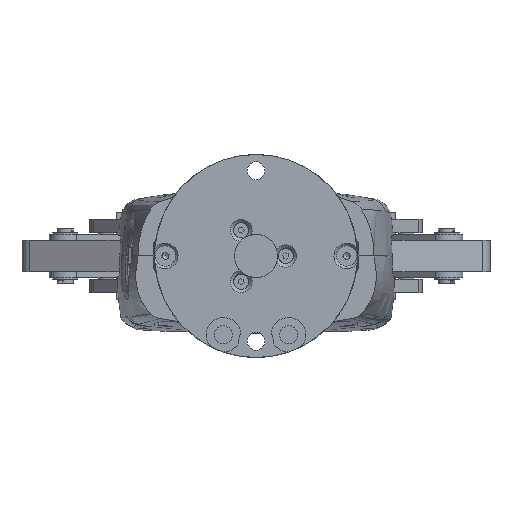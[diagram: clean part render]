
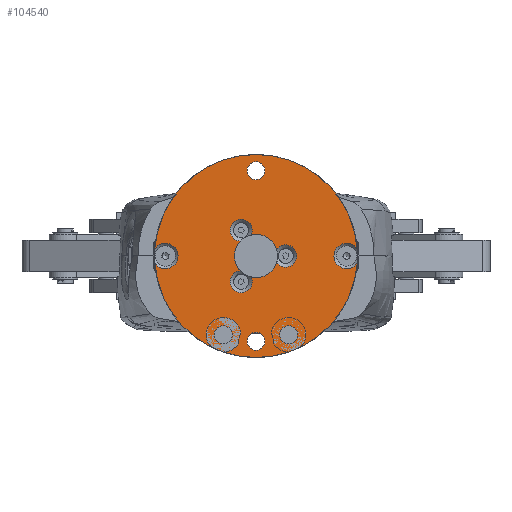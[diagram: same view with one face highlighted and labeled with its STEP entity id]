
A CAD part, front view. The second image highlights one B-rep face of the part: STEP entity #104540.
In plain terms, the highlighted planar face has unit normal (0, -1, 0).
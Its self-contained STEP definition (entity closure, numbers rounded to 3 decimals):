
#125 = EDGE_CURVE ( 'NONE', #43300, #43300, #105601, .T. ) ;
#957 = CIRCLE ( 'NONE', #10593, 8. ) ;
#3044 = CARTESIAN_POINT ( 'NONE',  ( 26.067, 64.579, 151.669 ) ) ;
#5324 = CARTESIAN_POINT ( 'NONE',  ( 10.713, 64.579, 180.771 ) ) ;
#5917 = EDGE_LOOP ( 'NONE', ( #46003 ) ) ;
#8610 = CIRCLE ( 'NONE', #30763, 4.7 ) ;
#9492 = DIRECTION ( 'NONE',  ( -1., 0., 0. ) ) ;
#10593 = AXIS2_PLACEMENT_3D ( 'NONE', #45917, #17112, #165481 ) ;
#11450 = CARTESIAN_POINT ( 'NONE',  ( 5.213, 64.579, 190.298 ) ) ;
#13271 = CARTESIAN_POINT ( 'NONE',  ( 10.713, 64.579, 212.271 ) ) ;
#15260 = ORIENTED_EDGE ( 'NONE', *, *, #193301, .T. ) ;
#16236 = EDGE_CURVE ( 'NONE', #83800, #88005, #8610, .T. ) ;
#17112 = DIRECTION ( 'NONE',  ( 0., -1., 0. ) ) ;
#18805 = DIRECTION ( 'NONE',  ( 0., -1., 0. ) ) ;
#19326 = CARTESIAN_POINT ( 'NONE',  ( 8.931, 64.579, 172.972 ) ) ;
#21027 = DIRECTION ( 'NONE',  ( 0., -1., 0. ) ) ;
#26174 = VERTEX_POINT ( 'NONE', #44120 ) ;
#28959 = AXIS2_PLACEMENT_3D ( 'NONE', #162535, #148083, #132479 ) ;
#30763 = AXIS2_PLACEMENT_3D ( 'NONE', #52029, #36377, #156567 ) ;
#32305 = CARTESIAN_POINT ( 'NONE',  ( 10.713, 64.579, 180.771 ) ) ;
#32772 = AXIS2_PLACEMENT_3D ( 'NONE', #111647, #68559, #97938 ) ;
#33937 = DIRECTION ( 'NONE',  ( 0., -1., 0. ) ) ;
#36377 = DIRECTION ( 'NONE',  ( 0., -1., 0. ) ) ;
#38708 = AXIS2_PLACEMENT_3D ( 'NONE', #185574, #18805, #169150 ) ;
#43262 = CARTESIAN_POINT ( 'NONE',  ( 18.358, 64.579, 183.128 ) ) ;
#43300 = VERTEX_POINT ( 'NONE', #95467 ) ;
#44120 = CARTESIAN_POINT ( 'NONE',  ( 18.358, 64.579, 178.415 ) ) ;
#45917 = CARTESIAN_POINT ( 'NONE',  ( 10.713, 64.579, 180.771 ) ) ;
#46003 = ORIENTED_EDGE ( 'NONE', *, *, #125, .T. ) ;
#46563 = DIRECTION ( 'NONE',  ( 0., 1., 0. ) ) ;
#50690 = AXIS2_PLACEMENT_3D ( 'NONE', #11450, #86646, #9492 ) ;
#51820 = ORIENTED_EDGE ( 'NONE', *, *, #61951, .F. ) ;
#52029 = CARTESIAN_POINT ( 'NONE',  ( -22.787, 64.579, 180.771 ) ) ;
#54761 = AXIS2_PLACEMENT_3D ( 'NONE', #131252, #100552, #86175 ) ;
#55481 = VERTEX_POINT ( 'NONE', #149181 ) ;
#56716 = AXIS2_PLACEMENT_3D ( 'NONE', #100886, #175459, #85865 ) ;
#59645 = FACE_BOUND ( 'NONE', #133651, .T. ) ;
#60370 = VERTEX_POINT ( 'NONE', #43262 ) ;
#61951 = EDGE_CURVE ( 'NONE', #66522, #122067, #63492, .T. ) ;
#63225 = CARTESIAN_POINT ( 'NONE',  ( 14.013, 64.579, 149.271 ) ) ;
#63492 = CIRCLE ( 'NONE', #38708, 4.1 ) ;
#65073 = ORIENTED_EDGE ( 'NONE', *, *, #66687, .F. ) ;
#66522 = VERTEX_POINT ( 'NONE', #128589 ) ;
#66687 = EDGE_CURVE ( 'NONE', #26174, #60370, #134229, .T. ) ;
#68559 = DIRECTION ( 'NONE',  ( 0., 1., 0. ) ) ;
#69078 = FACE_BOUND ( 'NONE', #96184, .T. ) ;
#71623 = CIRCLE ( 'NONE', #98449, 37.5 ) ;
#72013 = EDGE_CURVE ( 'NONE', #150099, #66522, #182112, .T. ) ;
#73751 = FACE_BOUND ( 'NONE', #127725, .T. ) ;
#74900 = VERTEX_POINT ( 'NONE', #116494 ) ;
#76329 = CIRCLE ( 'NONE', #155485, 3.3 ) ;
#77252 = CARTESIAN_POINT ( 'NONE',  ( 22.767, 64.579, 151.669 ) ) ;
#78703 = EDGE_LOOP ( 'NONE', ( #82828 ) ) ;
#80266 = VERTEX_POINT ( 'NONE', #63225 ) ;
#80501 = AXIS2_PLACEMENT_3D ( 'NONE', #122134, #33937, #138484 ) ;
#82497 = ORIENTED_EDGE ( 'NONE', *, *, #97437, .F. ) ;
#82828 = ORIENTED_EDGE ( 'NONE', *, *, #97753, .T. ) ;
#83800 = VERTEX_POINT ( 'NONE', #158382 ) ;
#84067 = CARTESIAN_POINT ( 'NONE',  ( -26.697, 64.579, 183.381 ) ) ;
#85865 = DIRECTION ( 'NONE',  ( -1., 0., 0. ) ) ;
#86175 = DIRECTION ( 'NONE',  ( -1., 0., 0. ) ) ;
#86646 = DIRECTION ( 'NONE',  ( 0., -1., 0. ) ) ;
#88005 = VERTEX_POINT ( 'NONE', #84067 ) ;
#89370 = CIRCLE ( 'NONE', #56716, 4.7 ) ;
#90995 = DIRECTION ( 'NONE',  ( 0., 1., 0. ) ) ;
#92259 = AXIS2_PLACEMENT_3D ( 'NONE', #32305, #152443, #138158 ) ;
#93711 = ORIENTED_EDGE ( 'NONE', *, *, #178000, .F. ) ;
#94178 = EDGE_LOOP ( 'NONE', ( #170963, #132080, #15260, #181203 ) ) ;
#95467 = CARTESIAN_POINT ( 'NONE',  ( 1.958, 64.579, 151.669 ) ) ;
#96184 = EDGE_LOOP ( 'NONE', ( #51820, #144609, #93711, #82497, #65073, #117774 ) ) ;
#97435 = AXIS2_PLACEMENT_3D ( 'NONE', #13271, #90995, #119727 ) ;
#97437 = EDGE_CURVE ( 'NONE', #60370, #55481, #156262, .T. ) ;
#97753 = EDGE_CURVE ( 'NONE', #136505, #136505, #118993, .T. ) ;
#97938 = DIRECTION ( 'NONE',  ( 1., 0., 0. ) ) ;
#98449 = AXIS2_PLACEMENT_3D ( 'NONE', #125093, #183403, #140130 ) ;
#100552 = DIRECTION ( 'NONE',  ( 0., -1., 0. ) ) ;
#100886 = CARTESIAN_POINT ( 'NONE',  ( 44.213, 64.579, 180.771 ) ) ;
#101279 = EDGE_CURVE ( 'NONE', #166894, #166894, #147218, .T. ) ;
#103467 = EDGE_CURVE ( 'NONE', #80266, #80266, #76329, .T. ) ;
#104276 = VERTEX_POINT ( 'NONE', #162786 ) ;
#104540 = ADVANCED_FACE ( 'NONE', ( #153173, #73751, #59645, #148516, #108786, #69078 ), #181079, .T. ) ;
#105601 = CIRCLE ( 'NONE', #32772, 3.3 ) ;
#108786 = FACE_BOUND ( 'NONE', #78703, .T. ) ;
#111413 = EDGE_CURVE ( 'NONE', #104276, #88005, #116006, .T. ) ;
#111647 = CARTESIAN_POINT ( 'NONE',  ( -1.342, 64.579, 151.669 ) ) ;
#114440 = AXIS2_PLACEMENT_3D ( 'NONE', #5324, #21027, #140630 ) ;
#116006 = CIRCLE ( 'NONE', #114440, 37.5 ) ;
#116494 = CARTESIAN_POINT ( 'NONE',  ( 48.122, 64.579, 178.162 ) ) ;
#117774 = ORIENTED_EDGE ( 'NONE', *, *, #174058, .F. ) ;
#118517 = DIRECTION ( 'NONE',  ( 0., 1., 0. ) ) ;
#118993 = CIRCLE ( 'NONE', #97435, 3.3 ) ;
#119727 = DIRECTION ( 'NONE',  ( 1., 0., 0. ) ) ;
#122067 = VERTEX_POINT ( 'NONE', #19326 ) ;
#122134 = CARTESIAN_POINT ( 'NONE',  ( 10.713, 64.579, 180.771 ) ) ;
#125093 = CARTESIAN_POINT ( 'NONE',  ( 10.713, 64.579, 180.771 ) ) ;
#127725 = EDGE_LOOP ( 'NONE', ( #135689 ) ) ;
#128589 = CARTESIAN_POINT ( 'NONE',  ( 4.849, 64.579, 175.329 ) ) ;
#131252 = CARTESIAN_POINT ( 'NONE',  ( 10.713, 64.579, 180.771 ) ) ;
#132080 = ORIENTED_EDGE ( 'NONE', *, *, #16236, .F. ) ;
#132479 = DIRECTION ( 'NONE',  ( -1., 0., 0. ) ) ;
#133651 = EDGE_LOOP ( 'NONE', ( #188988 ) ) ;
#134229 = CIRCLE ( 'NONE', #28959, 4.1 ) ;
#135689 = ORIENTED_EDGE ( 'NONE', *, *, #103467, .T. ) ;
#136505 = VERTEX_POINT ( 'NONE', #183586 ) ;
#136722 = DIRECTION ( 'NONE',  ( 1., 0., 0. ) ) ;
#138158 = DIRECTION ( 'NONE',  ( -1., 0., 0. ) ) ;
#138484 = DIRECTION ( 'NONE',  ( -1., 0., 0. ) ) ;
#140130 = DIRECTION ( 'NONE',  ( -1., 0., 0. ) ) ;
#140630 = DIRECTION ( 'NONE',  ( -1., 0., 0. ) ) ;
#144609 = ORIENTED_EDGE ( 'NONE', *, *, #72013, .F. ) ;
#147218 = CIRCLE ( 'NONE', #181668, 3.3 ) ;
#147289 = CARTESIAN_POINT ( 'NONE',  ( 10.713, 64.579, 149.271 ) ) ;
#148083 = DIRECTION ( 'NONE',  ( 0., -1., 0. ) ) ;
#148516 = FACE_BOUND ( 'NONE', #5917, .T. ) ;
#149172 = EDGE_CURVE ( 'NONE', #104276, #74900, #89370, .T. ) ;
#149181 = CARTESIAN_POINT ( 'NONE',  ( 8.931, 64.579, 188.571 ) ) ;
#150099 = VERTEX_POINT ( 'NONE', #170043 ) ;
#151472 = CIRCLE ( 'NONE', #50690, 4.1 ) ;
#152443 = DIRECTION ( 'NONE',  ( 0., -1., 0. ) ) ;
#153173 = FACE_OUTER_BOUND ( 'NONE', #94178, .T. ) ;
#155485 = AXIS2_PLACEMENT_3D ( 'NONE', #147289, #118517, #179386 ) ;
#156262 = CIRCLE ( 'NONE', #54761, 8. ) ;
#156567 = DIRECTION ( 'NONE',  ( -1., 0., 0. ) ) ;
#158382 = CARTESIAN_POINT ( 'NONE',  ( -26.697, 64.579, 178.162 ) ) ;
#162535 = CARTESIAN_POINT ( 'NONE',  ( 21.713, 64.579, 180.771 ) ) ;
#162786 = CARTESIAN_POINT ( 'NONE',  ( 48.122, 64.579, 183.381 ) ) ;
#165481 = DIRECTION ( 'NONE',  ( -1., 0., 0. ) ) ;
#166894 = VERTEX_POINT ( 'NONE', #3044 ) ;
#169150 = DIRECTION ( 'NONE',  ( -1., 0., 0. ) ) ;
#170043 = CARTESIAN_POINT ( 'NONE',  ( 4.849, 64.579, 186.214 ) ) ;
#170963 = ORIENTED_EDGE ( 'NONE', *, *, #111413, .T. ) ;
#174058 = EDGE_CURVE ( 'NONE', #122067, #26174, #957, .T. ) ;
#175459 = DIRECTION ( 'NONE',  ( 0., -1., 0. ) ) ;
#178000 = EDGE_CURVE ( 'NONE', #55481, #150099, #151472, .T. ) ;
#179386 = DIRECTION ( 'NONE',  ( 1., 0., 0. ) ) ;
#181079 = PLANE ( 'NONE',  #80501 ) ;
#181203 = ORIENTED_EDGE ( 'NONE', *, *, #149172, .F. ) ;
#181668 = AXIS2_PLACEMENT_3D ( 'NONE', #77252, #46563, #136722 ) ;
#182112 = CIRCLE ( 'NONE', #92259, 8. ) ;
#183403 = DIRECTION ( 'NONE',  ( 0., -1., 0. ) ) ;
#183586 = CARTESIAN_POINT ( 'NONE',  ( 14.013, 64.579, 212.271 ) ) ;
#185574 = CARTESIAN_POINT ( 'NONE',  ( 5.213, 64.579, 171.245 ) ) ;
#188988 = ORIENTED_EDGE ( 'NONE', *, *, #101279, .T. ) ;
#193301 = EDGE_CURVE ( 'NONE', #83800, #74900, #71623, .T. ) ;
